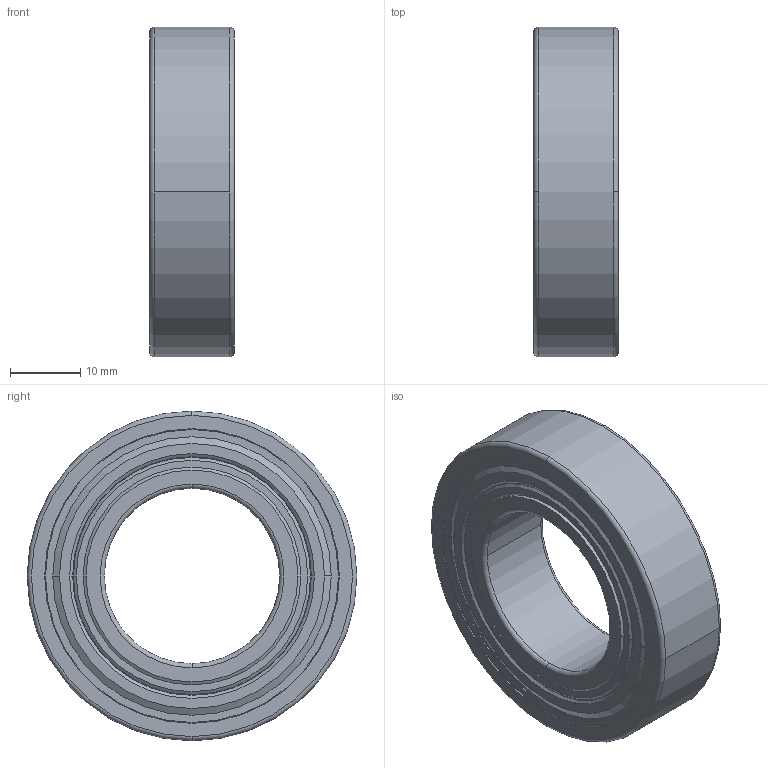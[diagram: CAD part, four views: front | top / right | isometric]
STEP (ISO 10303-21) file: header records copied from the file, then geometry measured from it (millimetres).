
FILE_DESCRIPTION(('STEP AP214'),'1');
FILE_NAME('snr_6005zz_0.stp','2023-08-24T21:10:35',('TraceParts'),('TraceParts S.A.'),'Spatial InterOp 3D',' ',' ');
FILE_SCHEMA(('AUTOMOTIVE_DESIGN { 1 0 10303 214 1 1 1 1 }'));
Length unit declared in the file: millimetre
Products named in the file (1): snr_6005zz_0_1
Bounding box: 12 x 47 x 47 mm (x, y, z)
Volume: 12790.2 mm3; surface area: 13887.3 mm2
Topology: 5 solids, 5 shells, 118 faces, 264 edges, 172 vertices
Faces by surface type: torus 36, cone 32, plane 26, cylinder 24
Entity records: 3451 total; most frequent: DIRECTION 718, CARTESIAN_POINT 559, ORIENTED_EDGE 528, AXIS2_PLACEMENT_3D 331, EDGE_CURVE 264, CIRCLE 208, VERTEX_POINT 172, EDGE_LOOP 144
